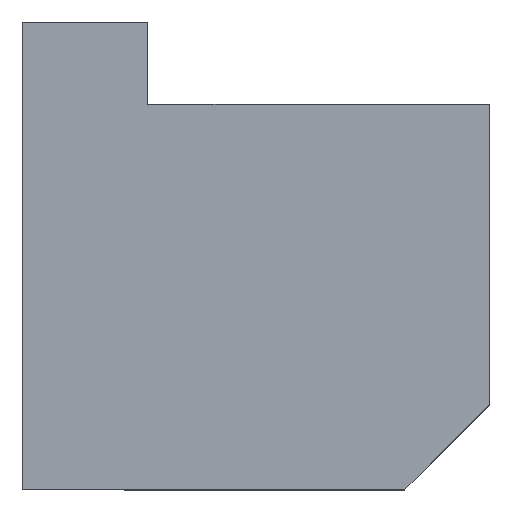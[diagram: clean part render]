
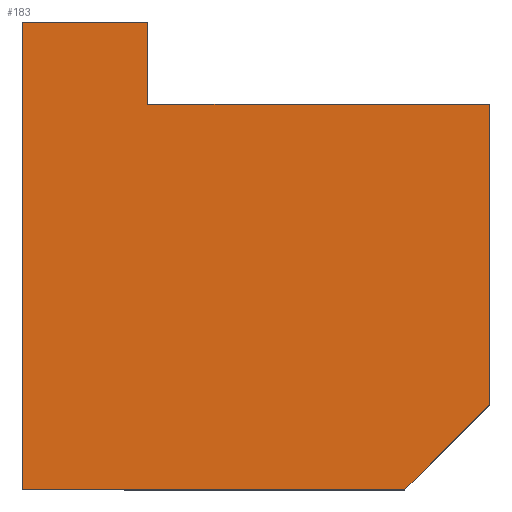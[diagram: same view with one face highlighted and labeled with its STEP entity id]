
A CAD part, top view. The second image highlights one B-rep face of the part: STEP entity #183.
In plain terms, the highlighted planar face has unit normal (0, 0, 1).
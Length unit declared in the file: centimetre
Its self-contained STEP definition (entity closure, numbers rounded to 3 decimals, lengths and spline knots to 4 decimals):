
#9 = ORIENTED_EDGE ( 'NONE', *, *, #350, .T. ) ;
#28 = LINE ( 'NONE', #554, #488 ) ;
#47 = ORIENTED_EDGE ( 'NONE', *, *, #58, .T. ) ;
#58 = EDGE_CURVE ( 'NONE', #308, #104, #562, .T. ) ;
#60 = VECTOR ( 'NONE', #78, 100. ) ;
#63 = VERTEX_POINT ( 'NONE', #82 ) ;
#78 = DIRECTION ( 'NONE',  ( -1., 0., 0. ) ) ;
#82 = CARTESIAN_POINT ( 'NONE',  ( 818.8217, 0., 1000. ) ) ;
#93 = CARTESIAN_POINT ( 'NONE',  ( 268.5218, 823.5242, 1000. ) ) ;
#104 = VERTEX_POINT ( 'NONE', #416 ) ;
#110 = DIRECTION ( 'NONE',  ( 0., -1., 0. ) ) ;
#111 = VERTEX_POINT ( 'NONE', #312 ) ;
#124 = ORIENTED_EDGE ( 'NONE', *, *, #523, .T. ) ;
#139 = CARTESIAN_POINT ( 'NONE',  ( 0., 0., 1000. ) ) ;
#143 = FACE_OUTER_BOUND ( 'NONE', #348, .T. ) ;
#149 = VECTOR ( 'NONE', #110, 100. ) ;
#150 = VERTEX_POINT ( 'NONE', #182 ) ;
#153 = CARTESIAN_POINT ( 'NONE',  ( 0., 0., 1000. ) ) ;
#160 = LINE ( 'NONE', #153, #539 ) ;
#163 = VECTOR ( 'NONE', #458, 100. ) ;
#182 = CARTESIAN_POINT ( 'NONE',  ( 1000., 823.5242, 1000. ) ) ;
#183 = ADVANCED_FACE ( 'NONE', ( #143 ), #380, .T. ) ;
#237 = LINE ( 'NONE', #93, #276 ) ;
#239 = VERTEX_POINT ( 'NONE', #333 ) ;
#259 = CARTESIAN_POINT ( 'NONE',  ( 268.5218, 823.5242, 1000. ) ) ;
#267 = ORIENTED_EDGE ( 'NONE', *, *, #291, .T. ) ;
#276 = VECTOR ( 'NONE', #428, 100. ) ;
#291 = EDGE_CURVE ( 'NONE', #239, #63, #160, .T. ) ;
#293 = LINE ( 'NONE', #452, #149 ) ;
#300 = CARTESIAN_POINT ( 'NONE',  ( 409.4109, -409.4109, 1000. ) ) ;
#308 = VERTEX_POINT ( 'NONE', #398 ) ;
#312 = CARTESIAN_POINT ( 'NONE',  ( 1000., 181.1783, 1000. ) ) ;
#333 = CARTESIAN_POINT ( 'NONE',  ( 0., 0., 1000. ) ) ;
#339 = ORIENTED_EDGE ( 'NONE', *, *, #366, .F. ) ;
#348 = EDGE_LOOP ( 'NONE', ( #598, #339, #47, #124, #267, #9, #619 ) ) ;
#350 = EDGE_CURVE ( 'NONE', #63, #111, #546, .T. ) ;
#366 = EDGE_CURVE ( 'NONE', #308, #443, #293, .T. ) ;
#368 = CARTESIAN_POINT ( 'NONE',  ( 0., 1000., 1000. ) ) ;
#380 = PLANE ( 'NONE',  #382 ) ;
#382 = AXIS2_PLACEMENT_3D ( 'NONE', #139, #471, #432 ) ;
#398 = CARTESIAN_POINT ( 'NONE',  ( 268.5218, 1000., 1000. ) ) ;
#415 = CARTESIAN_POINT ( 'NONE',  ( 0., 1000., 1000. ) ) ;
#416 = CARTESIAN_POINT ( 'NONE',  ( 0., 1000., 1000. ) ) ;
#425 = VECTOR ( 'NONE', #593, 100. ) ;
#428 = DIRECTION ( 'NONE',  ( 1., 0., 0. ) ) ;
#432 = DIRECTION ( 'NONE',  ( 1., 0., 0. ) ) ;
#443 = VERTEX_POINT ( 'NONE', #259 ) ;
#450 = DIRECTION ( 'NONE',  ( 1., 0., 0. ) ) ;
#452 = CARTESIAN_POINT ( 'NONE',  ( 268.5218, 1000., 1000. ) ) ;
#458 = DIRECTION ( 'NONE',  ( 0., -1., 0. ) ) ;
#463 = LINE ( 'NONE', #415, #163 ) ;
#471 = DIRECTION ( 'NONE',  ( 0., 0., 1. ) ) ;
#488 = VECTOR ( 'NONE', #604, 100. ) ;
#523 = EDGE_CURVE ( 'NONE', #104, #239, #463, .T. ) ;
#539 = VECTOR ( 'NONE', #450, 100. ) ;
#546 = LINE ( 'NONE', #300, #425 ) ;
#550 = EDGE_CURVE ( 'NONE', #111, #150, #28, .T. ) ;
#554 = CARTESIAN_POINT ( 'NONE',  ( 1000., 1000., 1000. ) ) ;
#562 = LINE ( 'NONE', #368, #60 ) ;
#572 = EDGE_CURVE ( 'NONE', #443, #150, #237, .T. ) ;
#593 = DIRECTION ( 'NONE',  ( 0.707, 0.707, 0. ) ) ;
#598 = ORIENTED_EDGE ( 'NONE', *, *, #572, .F. ) ;
#604 = DIRECTION ( 'NONE',  ( 0., 1., 0. ) ) ;
#619 = ORIENTED_EDGE ( 'NONE', *, *, #550, .T. ) ;
